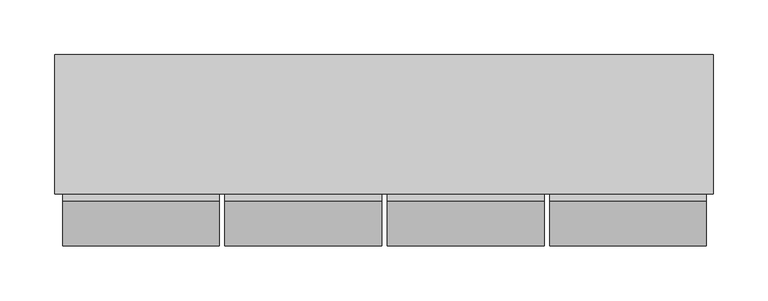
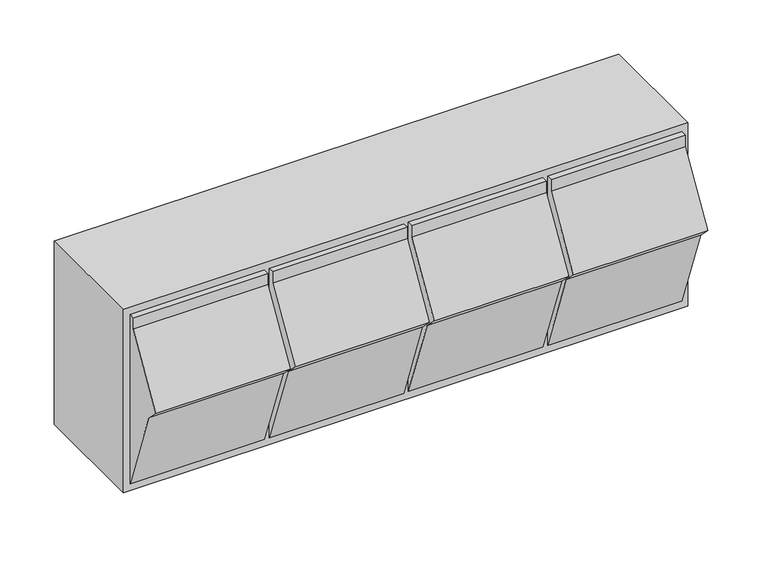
"""IFC4 building model written with IfcOpenShell, lengths in millimetres: furniture geometry, HermanMiller_Carts_CT9303_Tilt-OutStorageBin : 4 Bins."""

from ifc_helpers import new_model, si_unit, frame, origin, place, context, project, spatial, polyline, outline, extrude, source, transform, mapped, element, save


def furniture_0130290e(model_context):
    return source(origin(), model_context, "Body", "SweptSolid", [
        extrude(outline(polyline([(-63.5, 1697.0375), (-63.5, 1506.5375), (-98.1681648, 1601.7875), (-111.125, 1614.7443352), (-69.85, 1684.3375), (-69.85, 1697.0375), (-63.5, 1697.0375)])), frame((151.0385983, 0.0, 0.0), z_axis=(1.0, 0.0, 0.0), x_axis=(0.0, 1.0, 0.0)), (0.0, 0.0, 1.0), 142.875),
        extrude(outline(polyline([(-63.5, 1697.0375), (-63.5, 1506.5375), (-98.1681648, 1601.7875), (-111.125, 1614.7443352), (-69.85, 1684.3375), (-69.85, 1697.0375), (-63.5, 1697.0375)])), frame((3.0835983, 0.0, 0.0), z_axis=(1.0, 0.0, 0.0), x_axis=(0.0, 1.0, 0.0)), (0.0, 0.0, 1.0), 142.875),
        extrude(outline(polyline([(-63.5, 1697.0375), (-63.5, 1506.5375), (-98.1681648, 1601.7875), (-111.125, 1614.7443352), (-69.85, 1684.3375), (-69.85, 1697.0375), (-63.5, 1697.0375)])), frame((-144.8714017, 0.0, 0.0), z_axis=(1.0, 0.0, 0.0), x_axis=(0.0, 1.0, 0.0)), (0.0, 0.0, 1.0), 142.875),
        extrude(outline(polyline([(-63.5, 1697.0375), (-63.5, 1506.5375), (-98.1681648, 1601.7875), (-111.125, 1614.7443352), (-69.85, 1684.3375), (-69.85, 1697.0375), (-63.5, 1697.0375)])), frame((-292.8264017, 0.0, 0.0), z_axis=(1.0, 0.0, 0.0), x_axis=(0.0, 1.0, 0.0)), (0.0, 0.0, 1.0), 142.875),
        extrude(outline(polyline([(-299.9701517, 63.5), (300.1048483, 63.5), (300.1048483, -63.5), (-299.9701517, -63.5), (-299.9701517, 63.5)])), frame((0.0, 0.0, 1498.6), z_axis=(0.0, 0.0, 1.0), x_axis=(1.0, 0.0, 0.0)), (0.0, 0.0, 1.0), 206.375),
    ])


if __name__ == "__main__":
    model = new_model("IFC4")
    model_context = context("Model", 3, world=origin())
    ifc_project = project(units=[si_unit("LENGTHUNIT", "METRE", prefix="MILLI")], contexts=[model_context])
    site = spatial("IfcSite", under=ifc_project)
    building = spatial("IfcBuilding", under=site)
    placement = place(None, origin())
    furniture_shape = furniture_0130290e(model_context)
    element("IfcFurniture", 1, ObjectType="HermanMiller_Carts_CT9303_Tilt-OutStorageBin : 4 Bins", at=placement, inside=building, context=model_context, shape_type="MappedRepresentation", body=[
        mapped(furniture_shape, transform((0.0, 0.0, 0.0), x_axis=(1.0, 0.0, 0.0), y_axis=(0.0, 1.0, 0.0), z_axis=(0.0, 0.0, 1.0))),
    ])
    save(model, "model.ifc")
